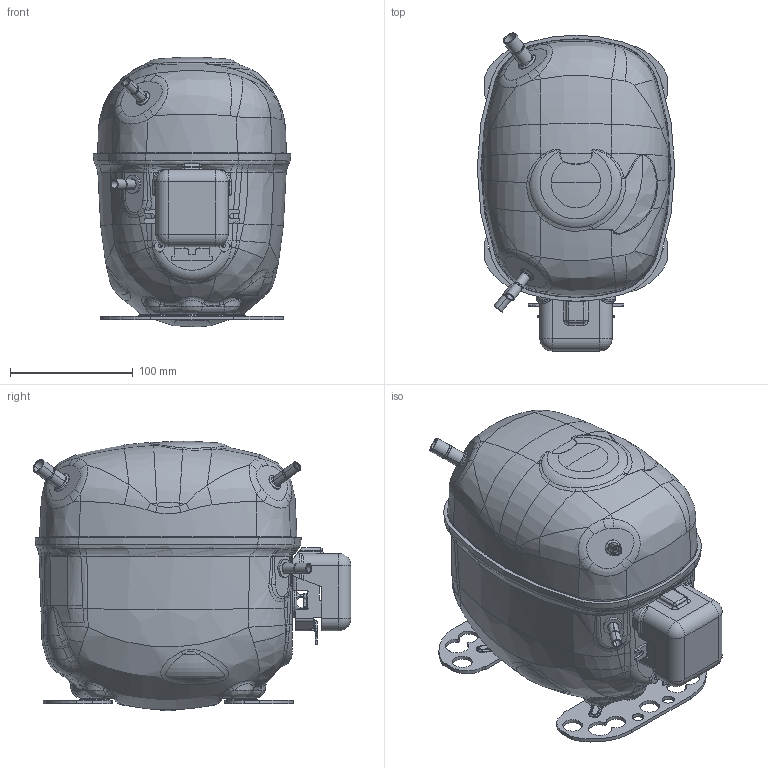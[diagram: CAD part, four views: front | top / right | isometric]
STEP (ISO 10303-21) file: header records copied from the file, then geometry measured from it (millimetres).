
FILE_DESCRIPTION((''),'2;1');
FILE_NAME('MS18UVULTM_S10_2_P6_2_D6_2_ASM','2026-05-12T02:09:24',('jia_x'),(''),'CREO PARAMETRIC BY PTC INC, 2021424','CREO PARAMETRIC BY PTC INC, 2021424','');
FILE_SCHEMA(('CONFIG_CONTROL_DESIGN'));
Length unit declared in the file: millimetre
Products named in the file (33): 104B0321_1_1_6; 104B0378_1_1_6; 104B0480_AF0_1_1_6; 104B1046_ASM_1_1_ASM_6_ASM; 104B0516_1_1_6; 104B0480_AF1_1_1_6; 104B1461_ASM_1_1_ASM_6_ASM; 104B0517_1_1_6; 104B0480_AF2_1_1_6; 104B1462_ASM_1_1_ASM_6_ASM; 104B0504_1_1_6; 117-3617_BODY_1_1_6; 117-3617_PINS_1_1_6; 117-3617_GLASS_FUSED_1_1_6; 117-3617_ASM_1_1_ASM_6_ASM; 104B0674_1_1_6; 104B0635_1_1_6; 104B0677_BENT_1_1_6; 104B0689_BENT_ASM_1_1_ASM_6_ASM; 103N0510_1_1_6; 104B1284_ASM_1_1_ASM_7_ASM; PRODUCT5_ASM_7_ASM; 104B1473_SCE_HOUSING_1; 104B1432_SCE_HOUSING_ASSY_ASM_1_ASM; 104B0694_SC_COVER_L12_5_R8_5_1; 104B0647_AF1_1; 104B0681_AF5_1; 104B2517_1; 104B2515_1; 104B1459_SC_COVER_ASSY_ASM_1_ASM; SLVE_ASSEMBLY_LARRY_ASM_8_ASM; 103N2009_4_1; MS18UVULTM_S10_2_P6_2_D6_2_ASM
Assembly tree (37 placements, depth 6):
  MS18UVULTM_S10_2_P6_2_D6_2_ASM
    SLVE_ASSEMBLY_LARRY_ASM_8_ASM
      PRODUCT5_ASM_7_ASM
        104B1284_ASM_1_1_ASM_7_ASM
          104B0321_1_1_6  x2
          104B1046_ASM_1_1_ASM_6_ASM
            104B0378_1_1_6
            104B0480_AF0_1_1_6
          104B1461_ASM_1_1_ASM_6_ASM
            104B0516_1_1_6
            104B0480_AF1_1_1_6
          104B1462_ASM_1_1_ASM_6_ASM
            104B0517_1_1_6
            104B0480_AF2_1_1_6
          104B0504_1_1_6
          117-3617_ASM_1_1_ASM_6_ASM
            117-3617_BODY_1_1_6
            117-3617_PINS_1_1_6  x3
            117-3617_GLASS_FUSED_1_1_6  x3
          104B0689_BENT_ASM_1_1_ASM_6_ASM
            104B0674_1_1_6
            104B0635_1_1_6
            104B0677_BENT_1_1_6
          103N0510_1_1_6
      104B1432_SCE_HOUSING_ASSY_ASM_1_ASM
        104B1473_SCE_HOUSING_1
      104B1459_SC_COVER_ASSY_ASM_1_ASM
        104B0694_SC_COVER_L12_5_R8_5_1
        104B0647_AF1_1
        104B0681_AF5_1
        104B2517_1
        104B2515_1
    103N2009_4_1
Bounding box: 161.12 x 259.21 x 219.86 mm (x, y, z)
Volume: 531650.4 mm3; surface area: 389744.8 mm2
Topology: 27 solids, 27 shells, 2330 faces, 6022 edges, 3714 vertices
Faces by surface type: bspline 720, cylinder 533, plane 419, torus 318, cone 240, sphere 72, revolution 18, extrusion 10
Entity records: 108612 total; most frequent: CARTESIAN_POINT 60236, ORIENTED_EDGE 10942, DIRECTION 8983, EDGE_CURVE 5471, AXIS2_PLACEMENT_3D 3761, VERTEX_POINT 3386, EDGE_LOOP 2255, CIRCLE 2199
